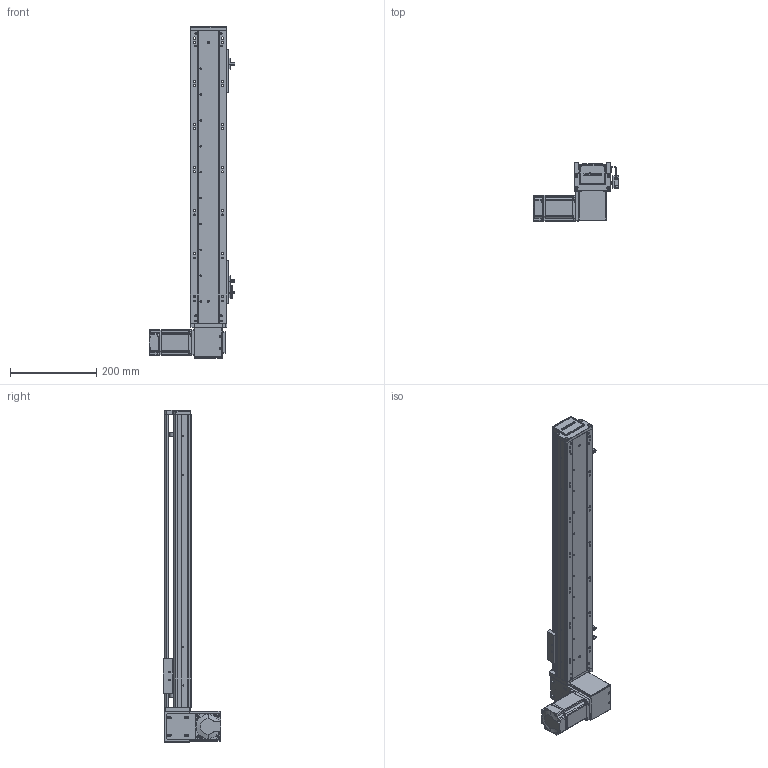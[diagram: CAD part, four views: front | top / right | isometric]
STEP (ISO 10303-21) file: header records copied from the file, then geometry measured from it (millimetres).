
FILE_DESCRIPTION (( 'STEP AP203' ), '1' );
FILE_NAME ('RY80-T-300-DL.SLDASM_500.step', '2021-03-01T01:37:49', ( '盈信电脑' ), ( '东莞市道滘镇水果街19号' ), 'SwSTEP 2.0', 'SolidWorks 2012', '' );
FILE_SCHEMA (( 'CONFIG_CONTROL_DESIGN' ));
Products named in the file (19): RY100-T粣創揤踡裔; RY80-T-300-DL.SLDASM_500; RY80-T-M4蹟翐3; RY80-T-上下折同步轮盖板; RY80-T肮祭謫狟殏俋欶; 1; RY80-T翋肮祭謫裔啣; 滅袉蝶18-10; RY80-T肮祭湍揤輸2; RY80-T萇儂假蚾啣; RY80-T肮祭湍揤輸1; RY80俋离覜茼え; RY80-T-翋肮祭謫釱; 覜茼ん672; RY80-T-300-DL倰第奻裔啣_500; 672嫖萇羲壽假蚾釱; RY80-T綴裔啣; RY80-T-300-DL倰第菁釱_500; RY80-T肮祭謫臏賑輸
Assembly tree (24 placements, depth 2):
  RY80-T-300-DL.SLDASM_500
    RY80-T-300-DL倰第菁釱_500
    RY80-T肮祭謫臏賑輸
    RY80-T-300-DL倰第奻裔啣_500
    RY80-T綴裔啣
    672嫖萇羲壽假蚾釱  x2
    覜茼ん672  x3
    RY80俋离覜茼え
    RY80-T-翋肮祭謫釱
    RY80-T肮祭湍揤輸1
    RY80-T肮祭湍揤輸2
    RY80-T萇儂假蚾啣
    RY80-T翋肮祭謫裔啣  x2
    滅袉蝶18-10  x2
    1
    RY80-T肮祭謫狟殏俋欶
    RY80-T-M4蹟翐3  x2
    RY80-T-上下折同步轮盖板
    RY100-T粣創揤踡裔
Bounding box: 198.7 x 134.5 x 770 mm (x, y, z)
Volume: 1536921.8 mm3; surface area: 632745.9 mm2
Topology: 24 solids, 24 shells, 2479 faces, 6825 edges, 4431 vertices
Faces by surface type: plane 1343, cylinder 932, cone 148, bspline 56
Entity records: 77659 total; most frequent: CARTESIAN_POINT 18750, ORIENTED_EDGE 12094, DIRECTION 11368, EDGE_CURVE 6047, VERTEX_POINT 3972, AXIS2_PLACEMENT_3D 3810, VECTOR 3748, LINE 3748
